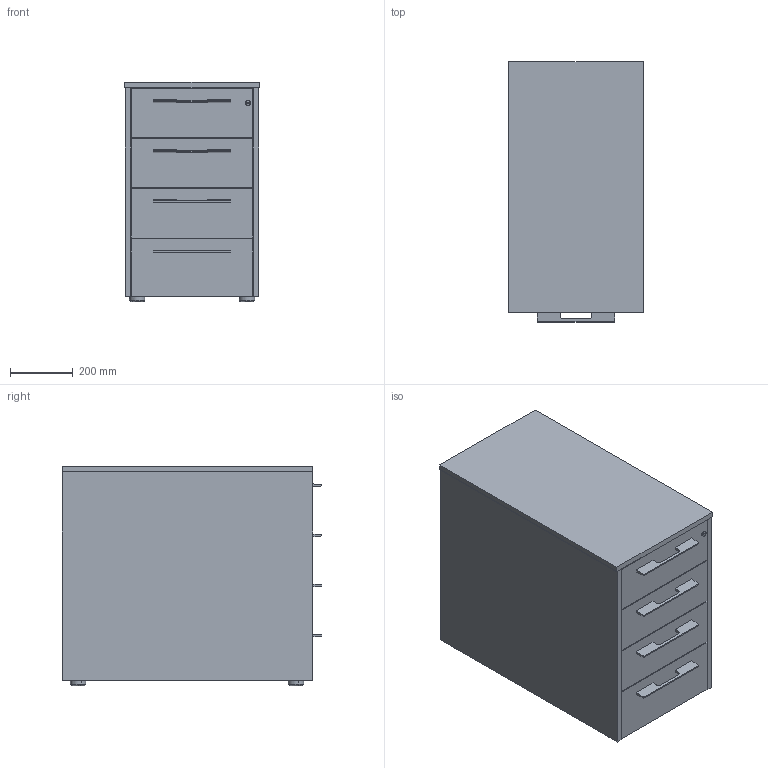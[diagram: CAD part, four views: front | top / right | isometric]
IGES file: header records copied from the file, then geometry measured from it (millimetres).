
Start section: SolidWorks IGES file using analytic representation for surfaces
Global section: file name: C:\Documents and Settings\mbiesiadecki\Moje dokumenty\MEBLE\SYSTEMY BIUROWE\6 VANCOUVER\VANCOUVER - Piktogramy\Vri-pikt-NT\Vr-KT11-t01.IGS; native system: SolidWorks 2011; preprocessor: SolidWorks 2011; author: mbiesiadecki; date: 110926.061327; units: millimetre
Bounding box: 430 x 830.1 x 702 mm (x, y, z)
Volume: 39129557.6 mm3; surface area: 4614204.8 mm2
Topology: 3 solids, 5 shells, 148 faces, 376 edges, 245 vertices
Faces by surface type: plane 99, revolution 49
